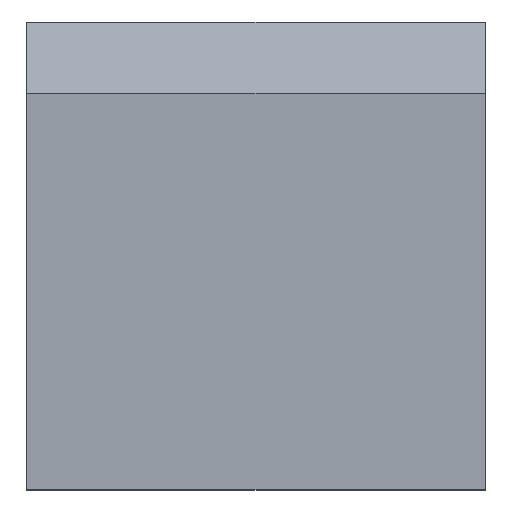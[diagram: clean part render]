
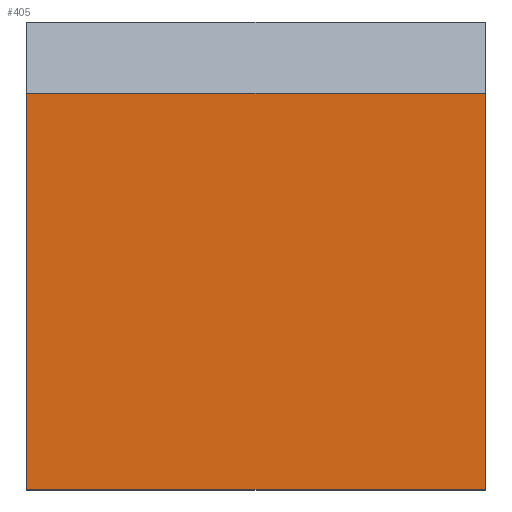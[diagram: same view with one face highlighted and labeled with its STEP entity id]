
A CAD part, top view. The second image highlights one B-rep face of the part: STEP entity #405.
In plain terms, the highlighted planar face has unit normal (0, 0, 1).
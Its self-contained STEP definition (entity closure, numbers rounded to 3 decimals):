
#41 = CARTESIAN_POINT ( 'NONE',  ( 32., 46.909, 53.439 ) ) ;
#85 = EDGE_LOOP ( 'NONE', ( #1025, #889, #963, #106 ) ) ;
#90 = VERTEX_POINT ( 'NONE', #419 ) ;
#106 = ORIENTED_EDGE ( 'NONE', *, *, #947, .T. ) ;
#128 = EDGE_CURVE ( 'NONE', #90, #255, #1043, .T. ) ;
#134 = VECTOR ( 'NONE', #229, 1000. ) ;
#213 = VERTEX_POINT ( 'NONE', #987 ) ;
#229 = DIRECTION ( 'NONE',  ( 0., -1., 0. ) ) ;
#239 = DIRECTION ( 'NONE',  ( 1., 0., 0. ) ) ;
#255 = VERTEX_POINT ( 'NONE', #813 ) ;
#405 = ADVANCED_FACE ( 'NONE', ( #825 ), #852, .F. ) ;
#419 = CARTESIAN_POINT ( 'NONE',  ( 32., 46.909, 53.439 ) ) ;
#494 = EDGE_CURVE ( 'NONE', #90, #1051, #775, .T. ) ;
#504 = DIRECTION ( 'NONE',  ( 0., -1., 0. ) ) ;
#588 = CARTESIAN_POINT ( 'NONE',  ( 32., 51.909, 53.439 ) ) ;
#592 = LINE ( 'NONE', #954, #1174 ) ;
#684 = CARTESIAN_POINT ( 'NONE',  ( 0., 51.909, 53.439 ) ) ;
#703 = CARTESIAN_POINT ( 'NONE',  ( 0., 46.909, 53.439 ) ) ;
#746 = CARTESIAN_POINT ( 'NONE',  ( 32., 51.909, 53.439 ) ) ;
#775 = LINE ( 'NONE', #41, #792 ) ;
#792 = VECTOR ( 'NONE', #868, 1000. ) ;
#809 = VECTOR ( 'NONE', #504, 1000. ) ;
#813 = CARTESIAN_POINT ( 'NONE',  ( 32., 19.249, 53.439 ) ) ;
#825 = FACE_OUTER_BOUND ( 'NONE', #85, .T. ) ;
#831 = DIRECTION ( 'NONE',  ( 0., 0., -1. ) ) ;
#852 = PLANE ( 'NONE',  #856 ) ;
#856 = AXIS2_PLACEMENT_3D ( 'NONE', #746, #831, #1001 ) ;
#868 = DIRECTION ( 'NONE',  ( -1., 0., 0. ) ) ;
#889 = ORIENTED_EDGE ( 'NONE', *, *, #494, .T. ) ;
#947 = EDGE_CURVE ( 'NONE', #213, #255, #592, .T. ) ;
#954 = CARTESIAN_POINT ( 'NONE',  ( 32., 19.249, 53.439 ) ) ;
#963 = ORIENTED_EDGE ( 'NONE', *, *, #969, .T. ) ;
#969 = EDGE_CURVE ( 'NONE', #1051, #213, #1132, .T. ) ;
#987 = CARTESIAN_POINT ( 'NONE',  ( 0., 19.249, 53.439 ) ) ;
#1001 = DIRECTION ( 'NONE',  ( -1., 0., 0. ) ) ;
#1025 = ORIENTED_EDGE ( 'NONE', *, *, #128, .F. ) ;
#1043 = LINE ( 'NONE', #588, #134 ) ;
#1051 = VERTEX_POINT ( 'NONE', #703 ) ;
#1132 = LINE ( 'NONE', #684, #809 ) ;
#1174 = VECTOR ( 'NONE', #239, 1000. ) ;
